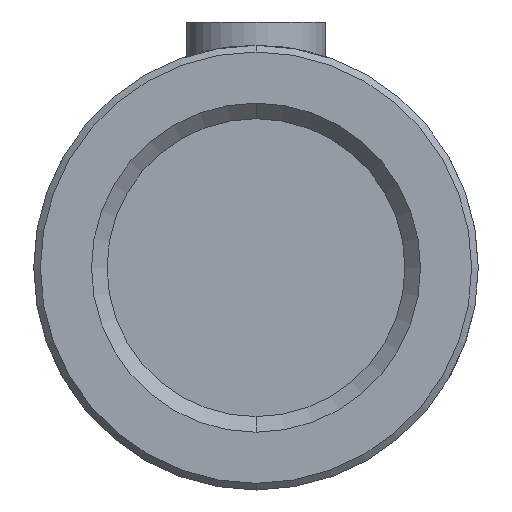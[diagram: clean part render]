
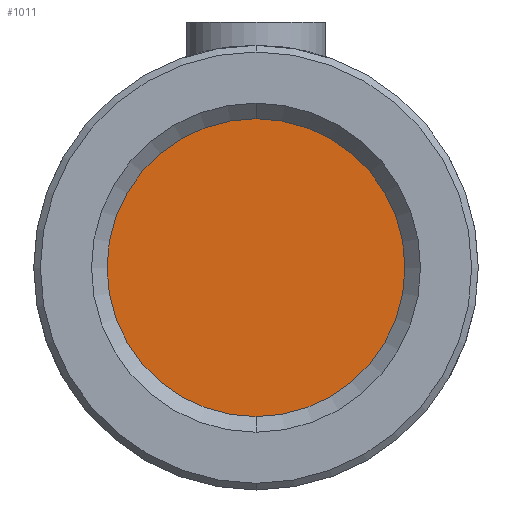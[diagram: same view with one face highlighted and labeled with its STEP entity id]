
A CAD part, front view. The second image highlights one B-rep face of the part: STEP entity #1011.
In plain terms, the highlighted planar face has unit normal (0, -1, 0).
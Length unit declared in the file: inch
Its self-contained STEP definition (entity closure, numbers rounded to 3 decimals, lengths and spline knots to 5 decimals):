
#13 = VERTEX_POINT ( 'NONE', #72 ) ;
#15 = VERTEX_POINT ( 'NONE', #107 ) ;
#72 = CARTESIAN_POINT ( 'NONE',  ( 0., 1., -0.335 ) ) ;
#107 = CARTESIAN_POINT ( 'NONE',  ( 0., 1., 0.335 ) ) ;
#194 = EDGE_CURVE ( 'NONE', #15, #13, #505, .T. ) ;
#218 = AXIS2_PLACEMENT_3D ( 'NONE', #904, #905, #906 ) ;
#221 = EDGE_CURVE ( 'NONE', #13, #15, #552, .T. ) ;
#227 = AXIS2_PLACEMENT_3D ( 'NONE', #837, #847, #848 ) ;
#365 = EDGE_LOOP ( 'NONE', ( #416, #410 ) ) ;
#410 = ORIENTED_EDGE ( 'NONE', *, *, #194, .T. ) ;
#416 = ORIENTED_EDGE ( 'NONE', *, *, #221, .T. ) ;
#505 = CIRCLE ( 'NONE', #218, 0.335 ) ;
#552 = CIRCLE ( 'NONE', #227, 0.335 ) ;
#567 = FACE_OUTER_BOUND ( 'NONE', #365, .T. ) ;
#837 = CARTESIAN_POINT ( 'NONE',  ( 0., 1., 0. ) ) ;
#847 = DIRECTION ( 'NONE',  ( 0., -1., 0. ) ) ;
#848 = DIRECTION ( 'NONE',  ( 0., 0., -1. ) ) ;
#904 = CARTESIAN_POINT ( 'NONE',  ( 0., 1., 0. ) ) ;
#905 = DIRECTION ( 'NONE',  ( 0., -1., 0. ) ) ;
#906 = DIRECTION ( 'NONE',  ( 0., 0., -1. ) ) ;
#907 = DIRECTION ( 'NONE',  ( 0., 0., -1. ) ) ;
#913 = PLANE ( 'NONE',  #955 ) ;
#919 = CARTESIAN_POINT ( 'NONE',  ( 0., 1., 0. ) ) ;
#921 = DIRECTION ( 'NONE',  ( 0., -1., 0. ) ) ;
#955 = AXIS2_PLACEMENT_3D ( 'NONE', #919, #921, #907 ) ;
#1011 = ADVANCED_FACE ( 'NONE', ( #567 ), #913, .T. ) ;
